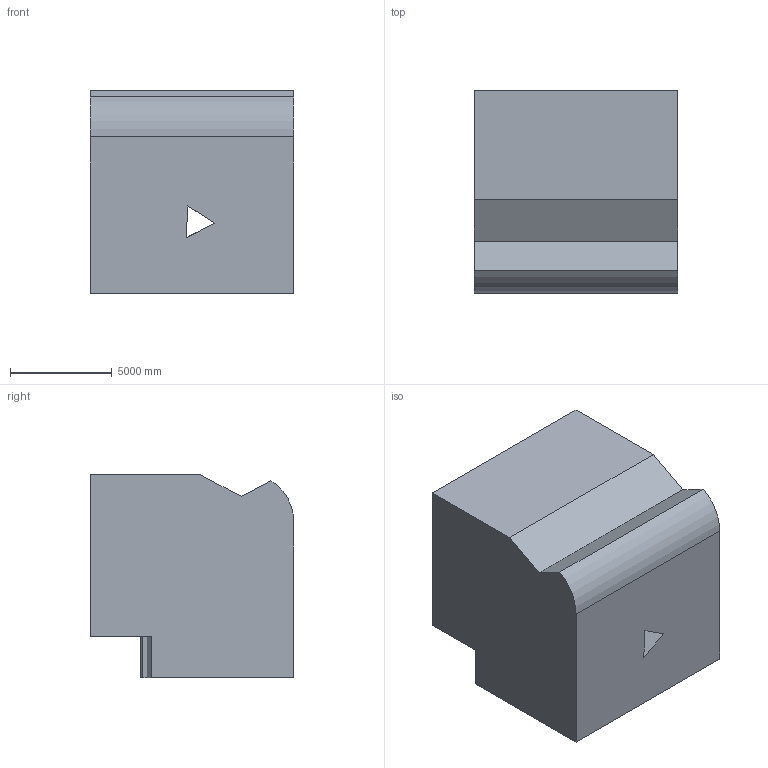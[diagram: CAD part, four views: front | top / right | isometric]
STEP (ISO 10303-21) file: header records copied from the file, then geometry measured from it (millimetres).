
FILE_DESCRIPTION (( 'STEP AP203' ), '1' );
FILE_NAME ('1519.STEP', '2022-08-18T15:00:03', ( 'user' ), ( '' ), 'SwSTEP 2.0', 'SolidWorks 2021', '' );
FILE_SCHEMA (( 'CONFIG_CONTROL_DESIGN' ));
Length unit declared in the file: centimetre
Products named in the file (1): 1519
Bounding box: 10000 x 10000 x 10000 mm (x, y, z)
Volume: 876241573829.9 mm3; surface area: 653917124.7 mm2
Topology: 1 solids, 1 shells, 30 faces, 90 edges, 60 vertices
Faces by surface type: plane 29, cylinder 1
Entity records: 1081 total; most frequent: CARTESIAN_POINT 181, ORIENTED_EDGE 180, DIRECTION 154, EDGE_CURVE 90, VECTOR 88, LINE 88, VERTEX_POINT 60, AXIS2_PLACEMENT_3D 33
